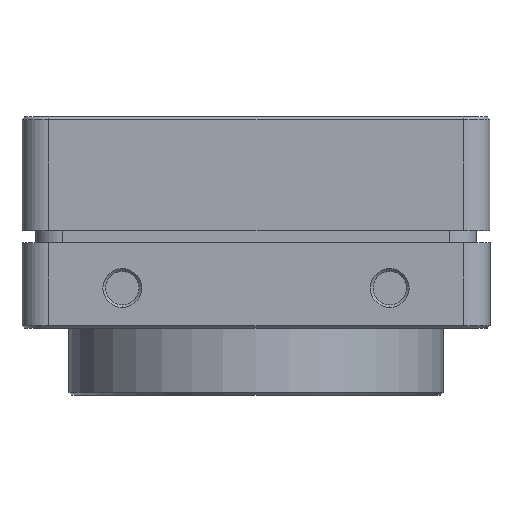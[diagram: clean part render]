
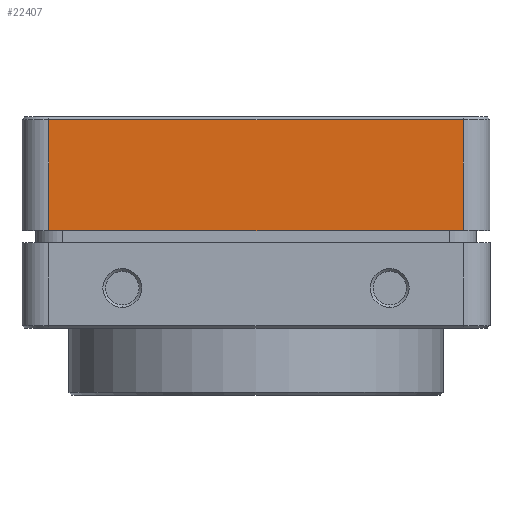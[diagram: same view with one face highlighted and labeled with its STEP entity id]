
A CAD part, front view. The second image highlights one B-rep face of the part: STEP entity #22407.
In plain terms, the highlighted planar face has unit normal (0, -1, 0).
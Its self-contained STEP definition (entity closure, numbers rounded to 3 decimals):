
#1632 = VECTOR ( 'NONE', #8828, 1000. ) ;
#2239 = CARTESIAN_POINT ( 'NONE',  ( -298.433, -61.969, 253.744 ) ) ;
#2650 = PLANE ( 'NONE',  #27962 ) ;
#3062 = VERTEX_POINT ( 'NONE', #25117 ) ;
#3521 = LINE ( 'NONE', #25082, #14058 ) ;
#6149 = EDGE_CURVE ( 'NONE', #12720, #19363, #13762, .T. ) ;
#7448 = LINE ( 'NONE', #29003, #25861 ) ;
#7557 = DIRECTION ( 'NONE',  ( 0., 1., 0. ) ) ;
#7891 = EDGE_LOOP ( 'NONE', ( #22793, #8983, #28521, #14090 ) ) ;
#8027 = CARTESIAN_POINT ( 'NONE',  ( -298.433, -61.969, 262.044 ) ) ;
#8087 = EDGE_CURVE ( 'NONE', #19363, #23111, #12923, .T. ) ;
#8419 = DIRECTION ( 'NONE',  ( -1., 0., 0. ) ) ;
#8828 = DIRECTION ( 'NONE',  ( 0., 0., 1. ) ) ;
#8983 = ORIENTED_EDGE ( 'NONE', *, *, #8087, .T. ) ;
#12354 = DIRECTION ( 'NONE',  ( 0., 0., 1. ) ) ;
#12720 = VERTEX_POINT ( 'NONE', #2239 ) ;
#12923 = LINE ( 'NONE', #8027, #20577 ) ;
#13762 = LINE ( 'NONE', #30401, #1632 ) ;
#14058 = VECTOR ( 'NONE', #8419, 1000. ) ;
#14090 = ORIENTED_EDGE ( 'NONE', *, *, #27820, .F. ) ;
#19363 = VERTEX_POINT ( 'NONE', #30195 ) ;
#20577 = VECTOR ( 'NONE', #24688, 1000. ) ;
#22407 = ADVANCED_FACE ( 'NONE', ( #23028 ), #2650, .F. ) ;
#22793 = ORIENTED_EDGE ( 'NONE', *, *, #6149, .T. ) ;
#23028 = FACE_OUTER_BOUND ( 'NONE', #7891, .T. ) ;
#23111 = VERTEX_POINT ( 'NONE', #25920 ) ;
#23587 = EDGE_CURVE ( 'NONE', #3062, #23111, #7448, .T. ) ;
#24250 = CARTESIAN_POINT ( 'NONE',  ( -298.433, -61.969, 256.144 ) ) ;
#24688 = DIRECTION ( 'NONE',  ( -1., 0., 0. ) ) ;
#25082 = CARTESIAN_POINT ( 'NONE',  ( -298.433, -61.969, 253.744 ) ) ;
#25117 = CARTESIAN_POINT ( 'NONE',  ( -329.433, -61.969, 253.744 ) ) ;
#25861 = VECTOR ( 'NONE', #12354, 1000. ) ;
#25920 = CARTESIAN_POINT ( 'NONE',  ( -329.433, -61.969, 262.044 ) ) ;
#27820 = EDGE_CURVE ( 'NONE', #12720, #3062, #3521, .T. ) ;
#27962 = AXIS2_PLACEMENT_3D ( 'NONE', #24250, #7557, #29106 ) ;
#28521 = ORIENTED_EDGE ( 'NONE', *, *, #23587, .F. ) ;
#29003 = CARTESIAN_POINT ( 'NONE',  ( -329.433, -61.969, 256.144 ) ) ;
#29106 = DIRECTION ( 'NONE',  ( 0., 0., -1. ) ) ;
#30195 = CARTESIAN_POINT ( 'NONE',  ( -298.433, -61.969, 262.044 ) ) ;
#30401 = CARTESIAN_POINT ( 'NONE',  ( -298.433, -61.969, 256.144 ) ) ;
